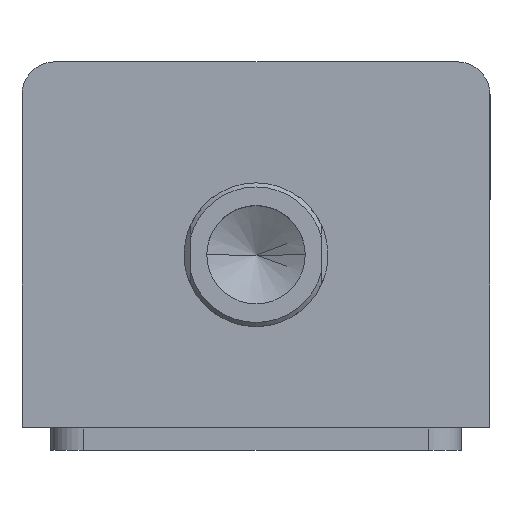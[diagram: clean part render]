
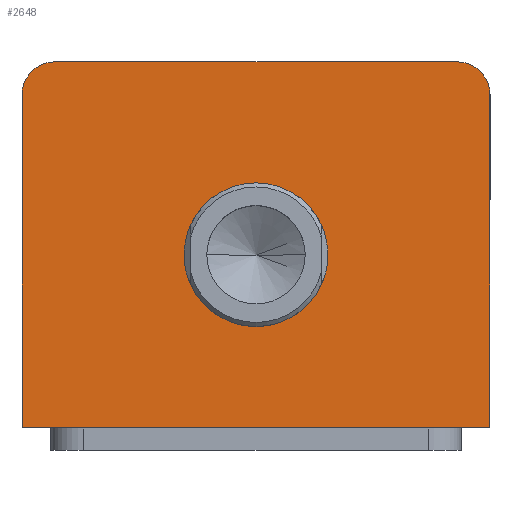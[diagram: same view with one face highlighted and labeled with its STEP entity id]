
A CAD part, top view. The second image highlights one B-rep face of the part: STEP entity #2648.
In plain terms, the highlighted planar face has unit normal (0, 0, 1).
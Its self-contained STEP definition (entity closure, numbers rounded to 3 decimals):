
#226 = FACE_OUTER_BOUND ( 'NONE', #1724, .T. ) ;
#227 = FACE_BOUND ( 'NONE', #1721, .T. ) ;
#667 = DIRECTION ( 'NONE',  ( 1., 0., 0. ) ) ;
#668 = DIRECTION ( 'NONE',  ( 0., 0., 1. ) ) ;
#670 = CARTESIAN_POINT ( 'NONE',  ( 0., -2.5, 102. ) ) ;
#745 = AXIS2_PLACEMENT_3D ( 'NONE', #670, #668, #667 ) ;
#774 = DIRECTION ( 'NONE',  ( 1., 0., 0. ) ) ;
#778 = DIRECTION ( 'NONE',  ( 0., -1., 0. ) ) ;
#779 = CARTESIAN_POINT ( 'NONE',  ( -57., 44.5, 102. ) ) ;
#797 = DIRECTION ( 'NONE',  ( 1., 0., 0. ) ) ;
#798 = DIRECTION ( 'NONE',  ( 0., 0., 1. ) ) ;
#799 = CARTESIAN_POINT ( 'NONE',  ( -49., 36.5, 102. ) ) ;
#838 = DIRECTION ( 'NONE',  ( 1., 0., 0. ) ) ;
#843 = DIRECTION ( 'NONE',  ( 0., 0., 1. ) ) ;
#844 = CARTESIAN_POINT ( 'NONE',  ( 49., 36.5, 102. ) ) ;
#897 = DIRECTION ( 'NONE',  ( -1., 0., 0. ) ) ;
#899 = CARTESIAN_POINT ( 'NONE',  ( -57., 44.5, 102. ) ) ;
#935 = CARTESIAN_POINT ( 'NONE',  ( -57., -44.5, 102. ) ) ;
#958 = DIRECTION ( 'NONE',  ( 0., 1., 0. ) ) ;
#960 = CARTESIAN_POINT ( 'NONE',  ( 57., 44.5, 102. ) ) ;
#996 = EDGE_CURVE ( 'NONE', #2590, #2594, #1688, .T. ) ;
#1014 = EDGE_CURVE ( 'NONE', #2594, #2610, #1667, .T. ) ;
#1035 = EDGE_CURVE ( 'NONE', #2622, #2625, #1748, .T. ) ;
#1049 = EDGE_CURVE ( 'NONE', #2610, #2622, #1963, .T. ) ;
#1060 = EDGE_CURVE ( 'NONE', #2625, #2641, #1913, .T. ) ;
#1065 = EDGE_CURVE ( 'NONE', #2641, #2590, #1842, .T. ) ;
#1285 = EDGE_CURVE ( 'NONE', #2592, #2591, #1859, .T. ) ;
#1370 = EDGE_CURVE ( 'NONE', #2591, #2592, #1994, .T. ) ;
#1639 = VECTOR ( 'NONE', #958, 1000. ) ;
#1667 = LINE ( 'NONE', #960, #1639 ) ;
#1684 = VECTOR ( 'NONE', #774, 1000. ) ;
#1688 = LINE ( 'NONE', #935, #1684 ) ;
#1721 = EDGE_LOOP ( 'NONE', ( #2324, #2325 ) ) ;
#1724 = EDGE_LOOP ( 'NONE', ( #2326, #2327, #2328, #2329, #2330, #2331 ) ) ;
#1748 = LINE ( 'NONE', #899, #1759 ) ;
#1759 = VECTOR ( 'NONE', #897, 1000. ) ;
#1816 = VECTOR ( 'NONE', #778, 1000. ) ;
#1842 = LINE ( 'NONE', #779, #1816 ) ;
#1859 = CIRCLE ( 'NONE', #745, 17.5 ) ;
#1913 = CIRCLE ( 'NONE', #2079, 8. ) ;
#1963 = CIRCLE ( 'NONE', #2086, 8. ) ;
#1994 = CIRCLE ( 'NONE', #2047, 17.5 ) ;
#2047 = AXIS2_PLACEMENT_3D ( 'NONE', #2890, #2889, #2877 ) ;
#2071 = AXIS2_PLACEMENT_3D ( 'NONE', #3119, #3090, #3087 ) ;
#2079 = AXIS2_PLACEMENT_3D ( 'NONE', #799, #798, #797 ) ;
#2086 = AXIS2_PLACEMENT_3D ( 'NONE', #844, #843, #838 ) ;
#2324 = ORIENTED_EDGE ( 'NONE', *, *, #1285, .F. ) ;
#2325 = ORIENTED_EDGE ( 'NONE', *, *, #1370, .F. ) ;
#2326 = ORIENTED_EDGE ( 'NONE', *, *, #1035, .T. ) ;
#2327 = ORIENTED_EDGE ( 'NONE', *, *, #1060, .T. ) ;
#2328 = ORIENTED_EDGE ( 'NONE', *, *, #1065, .T. ) ;
#2329 = ORIENTED_EDGE ( 'NONE', *, *, #996, .T. ) ;
#2330 = ORIENTED_EDGE ( 'NONE', *, *, #1014, .T. ) ;
#2331 = ORIENTED_EDGE ( 'NONE', *, *, #1049, .T. ) ;
#2590 = VERTEX_POINT ( 'NONE', #2688 ) ;
#2591 = VERTEX_POINT ( 'NONE', #2687 ) ;
#2592 = VERTEX_POINT ( 'NONE', #2686 ) ;
#2594 = VERTEX_POINT ( 'NONE', #2684 ) ;
#2610 = VERTEX_POINT ( 'NONE', #2667 ) ;
#2622 = VERTEX_POINT ( 'NONE', #2654 ) ;
#2625 = VERTEX_POINT ( 'NONE', #3204 ) ;
#2641 = VERTEX_POINT ( 'NONE', #3146 ) ;
#2648 = ADVANCED_FACE ( 'NONE', ( #227, #226 ), #3098, .T. ) ;
#2654 = CARTESIAN_POINT ( 'NONE',  ( 49., 44.5, 102. ) ) ;
#2667 = CARTESIAN_POINT ( 'NONE',  ( 57., 36.5, 102. ) ) ;
#2684 = CARTESIAN_POINT ( 'NONE',  ( 57., -44.5, 102. ) ) ;
#2686 = CARTESIAN_POINT ( 'NONE',  ( 17.5, -2.5, 102. ) ) ;
#2687 = CARTESIAN_POINT ( 'NONE',  ( -17.5, -2.5, 102. ) ) ;
#2688 = CARTESIAN_POINT ( 'NONE',  ( -57., -44.5, 102. ) ) ;
#2877 = DIRECTION ( 'NONE',  ( 1., 0., 0. ) ) ;
#2889 = DIRECTION ( 'NONE',  ( 0., 0., 1. ) ) ;
#2890 = CARTESIAN_POINT ( 'NONE',  ( 0., -2.5, 102. ) ) ;
#3087 = DIRECTION ( 'NONE',  ( 1., 0., 0. ) ) ;
#3090 = DIRECTION ( 'NONE',  ( 0., 0., 1. ) ) ;
#3098 = PLANE ( 'NONE',  #2071 ) ;
#3119 = CARTESIAN_POINT ( 'NONE',  ( 0., 0., 102. ) ) ;
#3146 = CARTESIAN_POINT ( 'NONE',  ( -57., 36.5, 102. ) ) ;
#3204 = CARTESIAN_POINT ( 'NONE',  ( -49., 44.5, 102. ) ) ;
